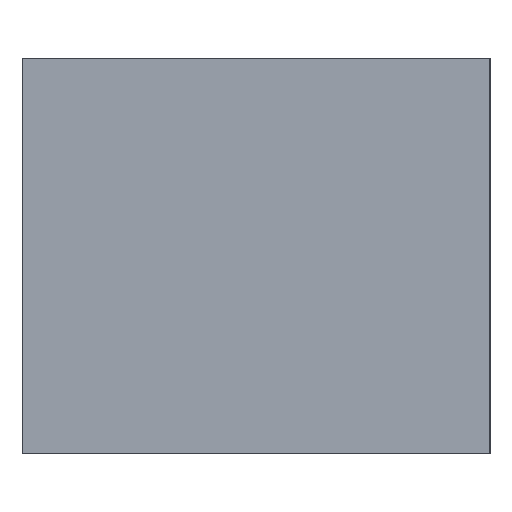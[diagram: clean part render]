
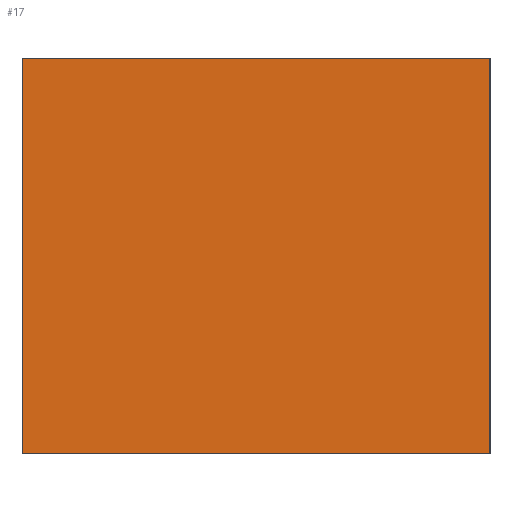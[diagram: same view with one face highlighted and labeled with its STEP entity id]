
A CAD part, left-side view. The second image highlights one B-rep face of the part: STEP entity #17.
In plain terms, the highlighted planar face has unit normal (-1, 0, 0).
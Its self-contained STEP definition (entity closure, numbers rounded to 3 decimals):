
#17 = ADVANCED_FACE('',(#18),#52,.F.);
#18 = FACE_BOUND('',#19,.F.);
#19 = EDGE_LOOP('',(#20,#30,#38,#46));
#20 = ORIENTED_EDGE('',*,*,#21,.F.);
#21 = EDGE_CURVE('',#22,#24,#26,.T.);
#22 = VERTEX_POINT('',#23);
#23 = CARTESIAN_POINT('',(-800.,-225.,0.));
#24 = VERTEX_POINT('',#25);
#25 = CARTESIAN_POINT('',(-800.,-225.,380.));
#26 = LINE('',#27,#28);
#27 = CARTESIAN_POINT('',(-800.,-225.,0.));
#28 = VECTOR('',#29,1.);
#29 = DIRECTION('',(0.,0.,1.));
#30 = ORIENTED_EDGE('',*,*,#31,.T.);
#31 = EDGE_CURVE('',#22,#32,#34,.T.);
#32 = VERTEX_POINT('',#33);
#33 = CARTESIAN_POINT('',(-800.,225.,0.));
#34 = LINE('',#35,#36);
#35 = CARTESIAN_POINT('',(-800.,-225.,0.));
#36 = VECTOR('',#37,1.);
#37 = DIRECTION('',(-0.,1.,0.));
#38 = ORIENTED_EDGE('',*,*,#39,.T.);
#39 = EDGE_CURVE('',#32,#40,#42,.T.);
#40 = VERTEX_POINT('',#41);
#41 = CARTESIAN_POINT('',(-800.,225.,380.));
#42 = LINE('',#43,#44);
#43 = CARTESIAN_POINT('',(-800.,225.,0.));
#44 = VECTOR('',#45,1.);
#45 = DIRECTION('',(0.,0.,1.));
#46 = ORIENTED_EDGE('',*,*,#47,.F.);
#47 = EDGE_CURVE('',#24,#40,#48,.T.);
#48 = LINE('',#49,#50);
#49 = CARTESIAN_POINT('',(-800.,-225.,380.));
#50 = VECTOR('',#51,1.);
#51 = DIRECTION('',(-0.,1.,0.));
#52 = PLANE('',#53);
#53 = AXIS2_PLACEMENT_3D('',#54,#55,#56);
#54 = CARTESIAN_POINT('',(-800.,-225.,0.));
#55 = DIRECTION('',(1.,0.,-0.));
#56 = DIRECTION('',(0.,0.,1.));
